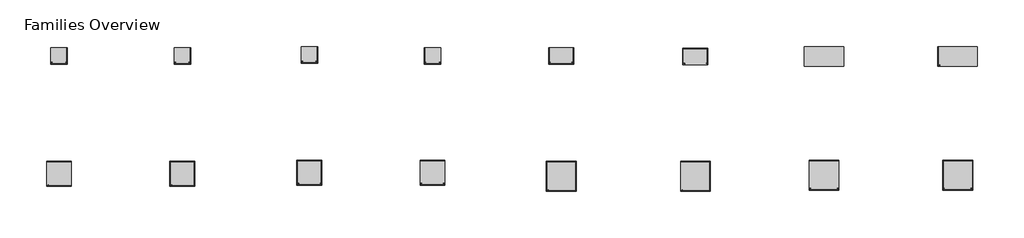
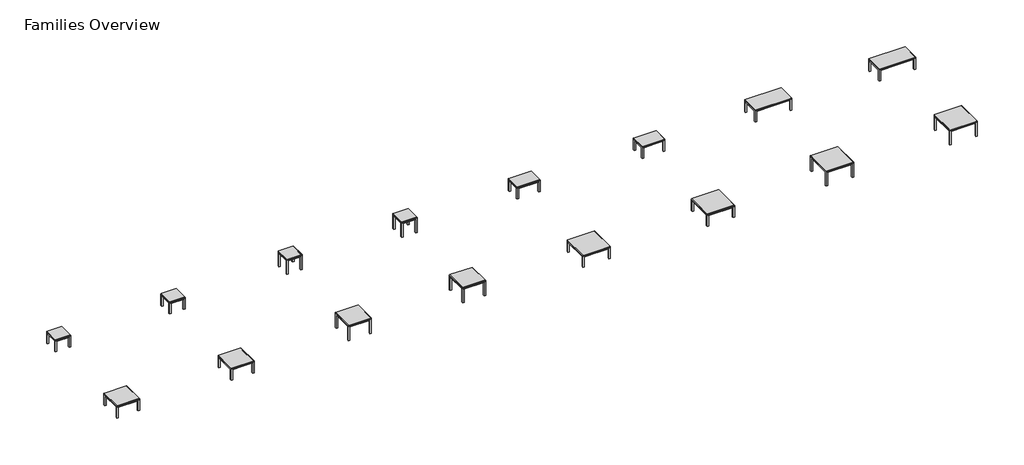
# One storey, incomplete: 16 furniture elements.
"""IFC4 building model written with IfcOpenShell, lengths in millimetres."""

import ifcopenshell
import ifcopenshell.guid

model = None  # the IFC model being written
_history = None  # IfcOwnerHistory: only IFC2X3 demands one
_inside = {}  # id of a spatial element -> (the spatial element, [elements in it])
_under = {}  # id of a project, library or spatial element -> (it, [spatial elements below it])
_declared = {}  # id of a project -> (the project, [libraries it declares])
_typed = {}  # id of a type object -> (the type object, [elements of that type])
_made_of = {}  # id of a material, layer set ... -> (it, [elements and type objects made of it])


def new_model(schema):
    """Start an empty IFC model of exactly this schema.

    Asked for "IFC4X3", IfcOpenShell would pick the latest addendum, in which some entities
    have other attributes; the version numbers below select the first issue.
    IFC2X3 requires an IfcOwnerHistory on every rooted entity: one is made here for all.
    """
    global model, _history
    if schema == "IFC4X3":
        model = ifcopenshell.file(schema_version=(4, 3, 0, 0))
    else:
        model = ifcopenshell.file(schema=schema)
    _inside.clear()
    _under.clear()
    _declared.clear()
    _typed.clear()
    _made_of.clear()
    _history = None
    if model.schema == "IFC2X3":
        org = make("IfcOrganization", Name="unknown")
        user = make(
            "IfcPersonAndOrganization",
            ThePerson=make("IfcPerson", FamilyName="unknown"),
            TheOrganization=org,
        )
        app = make(
            "IfcApplication",
            ApplicationDeveloper=org,
            Version="unknown",
            ApplicationFullName="unknown",
            ApplicationIdentifier="unknown",
        )
        _history = make(
            "IfcOwnerHistory",
            OwningUser=user,
            OwningApplication=app,
            ChangeAction="ADDED",
            CreationDate=0,
        )
    return model


def make(cls, **values):
    """One entity of the class cls with the attributes given. An attribute that is None is left unset."""
    return model.create_entity(
        cls, **{name: value for name, value in values.items() if value is not None}
    )


def rooted(cls, **values):
    """An entity with a GlobalId (a new one), such as an element, a storey or a relation."""
    return make(cls, GlobalId=ifcopenshell.guid.new(), OwnerHistory=_history, **values)


def si_unit(unit_type, name, prefix=None):
    """IfcSIUnit, for example si_unit("LENGTHUNIT", "METRE", prefix="MILLI")."""
    return make("IfcSIUnit", UnitType=unit_type, Prefix=prefix, Name=name)


def assignment(units):
    """IfcUnitAssignment: the units of a project."""
    return None if units is None else make("IfcUnitAssignment", Units=units)


def point(xyz):
    """IfcCartesianPoint."""
    return None if xyz is None else make("IfcCartesianPoint", Coordinates=xyz)


def direction(xyz):
    """IfcDirection."""
    return None if xyz is None else make("IfcDirection", DirectionRatios=xyz)


def frame(location, z_axis=None, x_axis=None):
    """IfcAxis2Placement3D, a coordinate frame: its origin and axes. An axis left out is left unset."""
    return make(
        "IfcAxis2Placement3D",
        Location=point(location),
        Axis=direction(z_axis),
        RefDirection=direction(x_axis),
    )


def origin():
    """The frame at (0, 0, 0) with its axes left unset."""
    return frame((0.0, 0.0, 0.0))


def place(relative_to, where):
    """IfcLocalPlacement: puts the frame where relative to a parent placement (None: the world)."""
    return make(
        "IfcLocalPlacement", PlacementRelTo=relative_to, RelativePlacement=where
    )


def context(
    kind, dimensions, precision=None, world=None, true_north=None, identifier=None
):
    """IfcGeometricRepresentationContext, for example the 3D "Model" context."""
    return make(
        "IfcGeometricRepresentationContext",
        ContextIdentifier=identifier,
        ContextType=kind,
        CoordinateSpaceDimension=dimensions,
        Precision=precision,
        WorldCoordinateSystem=world,
        TrueNorth=true_north,
    )


def project(units=None, contexts=None):
    """IfcProject with its units and contexts."""
    return rooted(
        "IfcProject",
        Name="project",
        RepresentationContexts=contexts,
        UnitsInContext=assignment(units),
    )


def spatial(cls, under=None, at=None, **own):
    """A site, building, storey or space (cls), placed at a placement, below another one or the project."""
    s = rooted(cls, ObjectPlacement=at, **own)
    if under is not None:
        _under.setdefault(under.id(), (under, []))[1].append(s)
    return s


def faces_of(points, faces, orient=None, outer=None):
    """IfcFace entities. A face is a list of loops; a loop is a list of indices into points, from 0.

    orient and outer hold one flag for each loop. By default every Orientation is true, the
    first loop of a face is its IfcFaceOuterBound and the others are IfcFaceBound.
    """
    made = []
    for i, loops in enumerate(faces):
        bounds = []
        for j, loop in enumerate(loops):
            is_outer = j == 0 if outer is None else outer[i][j]
            bounds.append(
                make(
                    "IfcFaceOuterBound" if is_outer else "IfcFaceBound",
                    Bound=make("IfcPolyLoop", Polygon=[points[k] for k in loop]),
                    Orientation=True if orient is None else orient[i][j],
                )
            )
        made.append(make("IfcFace", Bounds=bounds))
    return made


def faceted_brep(points, faces, orient=None, outer=None, voids=None):
    """IfcFacetedBrep: a solid bounded by flat faces; with voids (closed shells), ...WithVoids."""
    shared = [point(p) for p in points]
    hull = make("IfcClosedShell", CfsFaces=faces_of(shared, faces, orient, outer))
    if voids is None:
        return make("IfcFacetedBrep", Outer=hull)
    return make(
        "IfcFacetedBrepWithVoids",
        Outer=hull,
        Voids=[
            make(cls, CfsFaces=faces_of(shared, fs, o, b)) for cls, fs, o, b in voids
        ],
    )


def shape(context_of_items, identifier, shape_type, items):
    """IfcShapeRepresentation: the items that make up one representation, for example the "Body"."""
    return make(
        "IfcShapeRepresentation",
        ContextOfItems=context_of_items,
        RepresentationIdentifier=identifier,
        RepresentationType=shape_type,
        Items=items,
    )


def source(mapping_origin, context_of_items, identifier, shape_type, items):
    """IfcRepresentationMap: a shape defined once, which mapped items show again and again."""
    return make(
        "IfcRepresentationMap",
        MappingOrigin=mapping_origin,
        MappedRepresentation=shape(context_of_items, identifier, shape_type, items),
    )


def transform(
    local_origin,
    x_axis=None,
    y_axis=None,
    z_axis=None,
    scale=None,
    scale2=None,
    scale3=None,
    uniform=True,
):
    """IfcCartesianTransformationOperator3D, or its non-uniform kind. x_axis, y_axis, z_axis: its Axis1, 2, 3."""
    if uniform:
        return make(
            "IfcCartesianTransformationOperator3D",
            Axis1=direction(x_axis),
            Axis2=direction(y_axis),
            LocalOrigin=point(local_origin),
            Scale=scale,
            Axis3=direction(z_axis),
        )
    return make(
        "IfcCartesianTransformationOperator3DnonUniform",
        Axis1=direction(x_axis),
        Axis2=direction(y_axis),
        LocalOrigin=point(local_origin),
        Scale=scale,
        Axis3=direction(z_axis),
        Scale2=scale2,
        Scale3=scale3,
    )


def mapped(mapping_source, mapping_target):
    """IfcMappedItem: shows the shape of a source again, moved by a transform."""
    return make(
        "IfcMappedItem", MappingSource=mapping_source, MappingTarget=mapping_target
    )


def made_of(thing, what):
    """Note that an element or type object is made of a material, layer set ...; save() writes the relation."""
    if what is not None:
        _made_of.setdefault(what.id(), (what, []))[1].append(thing)
    return thing


def element(
    cls,
    number,
    at=None,
    inside=None,
    cuts=None,
    type_object=None,
    material=None,
    context=None,
    identifier="Body",
    shape_type=None,
    held_by="IfcProductDefinitionShape",
    body=None,
    shapes=None,
    **own,
):
    """One element of the class cls, such as IfcWall. Its Tag is "e" and its number.

    at: its placement. inside: the storey or other place that contains it. cuts: it is an
    opening in that element (IfcRelVoidsElement). A single representation is given by context,
    identifier, shape_type and body (its items); several are given by shapes. held_by: the class
    of the entity that holds the representations. save() writes the other relations.
    """
    e = rooted(cls, Tag="e%d" % number, ObjectPlacement=at, **own)
    if body is not None:
        shapes = [shape(context, identifier, shape_type, body)]
    if shapes is not None:
        e.Representation = make(held_by, Representations=shapes)
    if inside is not None:
        _inside.setdefault(inside.id(), (inside, []))[1].append(e)
    if cuts is not None:
        rooted(
            "IfcRelVoidsElement", RelatingBuildingElement=cuts, RelatedOpeningElement=e
        )
    if type_object is not None:
        _typed.setdefault(type_object.id(), (type_object, []))[1].append(e)
    return made_of(e, material)


def aggregate(whole, parts):
    """IfcRelAggregates: a whole, such as a stair, and the parts it consists of."""
    return rooted("IfcRelAggregates", RelatingObject=whole, RelatedObjects=parts)


def save(model, path):
    """Write the relations noted so far, then the file.

    IfcRelAggregates (storeys below a building ...), IfcRelContainedInSpatialStructure (elements
    in a storey), IfcRelDefinesByType, IfcRelAssociatesMaterial and IfcRelDeclares: one each for
    every whole, place, type object, material and project.
    """
    for whole, parts in _under.values():
        aggregate(whole, parts)
    for where, things in _inside.values():
        rooted(
            "IfcRelContainedInSpatialStructure",
            RelatedElements=things,
            RelatingStructure=where,
        )
    for kind, things in _typed.values():
        rooted("IfcRelDefinesByType", RelatedObjects=things, RelatingType=kind)
    for what, things in _made_of.values():
        rooted("IfcRelAssociatesMaterial", RelatedObjects=things, RelatingMaterial=what)
    for by, libraries in _declared.values():
        rooted("IfcRelDeclares", RelatingContext=by, RelatedDefinitions=libraries)
    model.write(path)


def furniture_cea75027(model_context):
    return source(origin(), model_context, "Body", "Brep", [
        faceted_brep([(508.0, 0.0, 381.0), (0.0, 0.0, 381.0), (0.0, -508.0, 381.0), (508.0, -508.0, 381.0), (508.0, -50.1297163, 358.7750121), (508.0, -458.1013016, 358.7750121), (457.8734085, -458.1013016, 358.7750121), (457.8734085, -457.8702837, 358.7750121), (501.6498062, -457.8702837, 358.7750121), (501.6498062, -50.1297163, 358.7750121), (457.8734085, -508.0, 358.7750121), (50.1812393, -508.0, 358.7750121), (50.1812393, -458.1013016, 358.7750121), (0.0, -458.1013016, 358.7750121), (0.0, -50.1297163, 358.7750121), (6.3501938, -50.1297163, 358.7750121), (6.3501938, -457.8702837, 358.7750121), (50.8001938, -457.8702837, 358.7750121), (50.8001938, -501.6496318, 358.7750121), (457.8734085, -501.6496318, 358.7750121), (50.1812393, 0.0, 358.7750121), (457.8734085, 0.0, 358.7750121), (457.8734085, -6.3503682, 358.7750121), (50.8001938, -6.3503682, 358.7750121), (50.8001938, -50.1297163, 358.7750121), (50.1812393, -50.1297163, 358.7750121), (508.0, 0.0, 0.0), (457.8734085, 0.0, 0.0), (50.1812393, 0.0, 0.0), (0.0, 0.0, 0.0), (0.0, -50.1297163, 0.0), (0.0, -458.1013016, 0.0), (0.0, -508.0, 0.0), (50.1812393, -508.0, 0.0), (457.8734085, -508.0, 0.0), (508.0, -508.0, 0.0), (508.0, -458.1013016, 0.0), (508.0, -50.1297163, 0.0), (50.1812393, -50.1297163, 0.0), (50.1812393, -458.1013016, 0.0), (457.8734085, -50.1297163, 0.0), (457.8734085, -458.1013016, 0.0), (50.1812393, -458.1013016, 336.5499879), (457.8734085, -50.1297163, 336.5499879), (457.8734085, -28.575, 336.5499879), (479.425, -50.1297163, 336.5499879), (457.8734085, -458.1013016, 336.5499879), (457.8734085, -479.425, 336.5499879), (50.7998062, -50.8000242, 336.5499879), (50.7998062, -28.575, 336.5499879), (479.425, -458.1013016, 336.5499879), (50.1812393, -479.425, 336.5499879), (50.1812393, -458.1013016, 336.5499879), (28.5708422, -458.1013016, 336.5499879), (28.5708422, -50.8000242, 336.5499879)], [[[0, 1, 2, 3]], [[4, 5, 6, 7, 8, 9]], [[10, 11, 12, 13, 14, 15, 16, 17, 18, 19]], [[20, 21, 22, 23, 24, 25]], [[1, 0, 26, 27, 21, 20, 28, 29]], [[2, 1, 29, 30, 14, 13, 31, 32]], [[3, 2, 32, 33, 11, 10, 34, 35]], [[0, 3, 35, 36, 5, 4, 37, 26]], [[28, 38, 30, 29]], [[33, 32, 31, 39]], [[26, 37, 40, 27]], [[36, 35, 34, 41]], [[30, 38, 25, 15, 14]], [[38, 28, 20, 25]], [[33, 39, 42, 12, 11]], [[39, 31, 13, 12, 42]], [[27, 40, 43, 44, 22, 21]], [[40, 37, 4, 9, 45, 43]], [[36, 41, 46, 6, 5]], [[41, 34, 10, 19, 47, 46]], [[48, 49, 44, 43, 45, 50, 46, 47, 51, 52, 53, 54]], [[48, 54, 15, 25, 24]], [[54, 53, 16, 15]], [[53, 52, 17, 16]], [[52, 51, 18, 17]], [[51, 47, 19, 18]], [[46, 7, 6]], [[46, 50, 8, 7]], [[50, 45, 9, 8]], [[44, 49, 23, 22]], [[49, 48, 24, 23]]]),
        faceted_brep([(508.0, -508.0, 411.1625121), (508.0, -508.0, 387.3500121), (508.0, 0.0, 387.3500121), (508.0, 0.0, 411.1625121), (0.0, 0.0, 411.1625121), (0.0, 0.0, 387.3500121), (0.0, -508.0, 387.3500121), (0.0, -508.0, 411.1625121), (500.0626938, -7.9375242, 419.1), (7.9373062, -7.9375242, 419.1), (7.9373062, -500.0625484, 419.1), (500.0626938, -500.0625484, 419.1)], [[[0, 1, 2, 3]], [[4, 5, 6, 7]], [[1, 0, 7, 6]], [[2, 1, 6, 5]], [[3, 2, 5, 4]], [[8, 9, 10, 11]], [[8, 11, 0, 3]], [[11, 10, 7, 0]], [[10, 9, 4, 7]], [[9, 8, 3, 4]]]),
        faceted_brep([(508.0, 0.0, 381.0), (508.0, -508.0, 381.0), (0.0, -508.0, 381.0), (0.0, 0.0, 381.0), (501.6498062, -6.3499758, 387.3500121), (6.3501938, -6.3499758, 387.3500121), (6.3501938, -501.6496318, 387.3500121), (501.6498062, -501.6496318, 387.3500121)], [[[0, 1, 2, 3]], [[4, 5, 6, 7]], [[4, 7, 1, 0]], [[7, 6, 2, 1]], [[6, 5, 3, 2]], [[5, 4, 0, 3]]]),
    ])


def furniture_31205a44(model_context):
    return source(origin(), model_context, "Body", "Brep", [
        faceted_brep([(508.0, 0.0, 495.3), (0.0, 0.0, 495.3), (0.0, -508.0, 495.3), (508.0, -508.0, 495.3), (508.0, -50.1297163, 473.0750121), (508.0, -458.1013016, 473.0750121), (457.8734085, -458.1013016, 473.0750121), (457.8734085, -457.8702837, 473.0750121), (501.6498062, -457.8702837, 473.0750121), (501.6498062, -50.1297163, 473.0750121), (457.8734085, -508.0, 473.0750121), (50.1812393, -508.0, 473.0750121), (50.1812393, -458.1013016, 473.0750121), (0.0, -458.1013016, 473.0750121), (0.0, -50.1297163, 473.0750121), (6.3501938, -50.1297163, 473.0750121), (6.3501938, -457.8702837, 473.0750121), (50.8001938, -457.8702837, 473.0750121), (50.8001938, -501.6496318, 473.0750121), (457.8734085, -501.6496318, 473.0750121), (50.1812393, 0.0, 473.0750121), (457.8734085, 0.0, 473.0750121), (457.8734085, -6.3503682, 473.0750121), (50.8001938, -6.3503682, 473.0750121), (50.8001938, -50.1297163, 473.0750121), (50.1812393, -50.1297163, 473.0750121), (508.0, 0.0, 0.0), (457.8734085, 0.0, 0.0), (50.1812393, 0.0, 0.0), (0.0, 0.0, 0.0), (0.0, -50.1297163, 0.0), (0.0, -458.1013016, 0.0), (0.0, -508.0, 0.0), (50.1812393, -508.0, 0.0), (457.8734085, -508.0, 0.0), (508.0, -508.0, 0.0), (508.0, -458.1013016, 0.0), (508.0, -50.1297163, 0.0), (50.1812393, -50.1297163, 0.0), (50.1812393, -458.1013016, 0.0), (457.8734085, -50.1297163, 0.0), (457.8734085, -458.1013016, 0.0), (50.1812393, -458.1013016, 450.8499879), (457.8734085, -50.1297163, 450.8499879), (457.8734085, -28.575, 450.8499879), (479.425, -50.1297163, 450.8499879), (457.8734085, -458.1013016, 450.8499879), (457.8734085, -479.425, 450.8499879), (50.7998062, -50.8000242, 450.8499879), (50.7998062, -28.575, 450.8499879), (479.425, -458.1013016, 450.8499879), (50.1812393, -479.425, 450.8499879), (50.1812393, -458.1013016, 450.8499879), (28.5708422, -458.1013016, 450.8499879), (28.5708422, -50.8000242, 450.8499879)], [[[0, 1, 2, 3]], [[4, 5, 6, 7, 8, 9]], [[10, 11, 12, 13, 14, 15, 16, 17, 18, 19]], [[20, 21, 22, 23, 24, 25]], [[1, 0, 26, 27, 21, 20, 28, 29]], [[2, 1, 29, 30, 14, 13, 31, 32]], [[3, 2, 32, 33, 11, 10, 34, 35]], [[0, 3, 35, 36, 5, 4, 37, 26]], [[28, 38, 30, 29]], [[33, 32, 31, 39]], [[26, 37, 40, 27]], [[36, 35, 34, 41]], [[30, 38, 25, 15, 14]], [[38, 28, 20, 25]], [[33, 39, 42, 12, 11]], [[39, 31, 13, 12, 42]], [[27, 40, 43, 44, 22, 21]], [[40, 37, 4, 9, 45, 43]], [[36, 41, 46, 6, 5]], [[41, 34, 10, 19, 47, 46]], [[48, 49, 44, 43, 45, 50, 46, 47, 51, 52, 53, 54]], [[48, 54, 15, 25, 24]], [[54, 53, 16, 15]], [[53, 52, 17, 16]], [[52, 51, 18, 17]], [[51, 47, 19, 18]], [[46, 7, 6]], [[46, 50, 8, 7]], [[50, 45, 9, 8]], [[44, 49, 23, 22]], [[49, 48, 24, 23]]]),
        faceted_brep([(508.0, -508.0, 525.4625121), (508.0, -508.0, 501.6500121), (508.0, 0.0, 501.6500121), (508.0, 0.0, 525.4625121), (0.0, 0.0, 525.4625121), (0.0, 0.0, 501.6500121), (0.0, -508.0, 501.6500121), (0.0, -508.0, 525.4625121), (500.0626938, -7.9375242, 533.4), (7.9373062, -7.9375242, 533.4), (7.9373062, -500.0625484, 533.4), (500.0626938, -500.0625484, 533.4)], [[[0, 1, 2, 3]], [[4, 5, 6, 7]], [[1, 0, 7, 6]], [[2, 1, 6, 5]], [[3, 2, 5, 4]], [[8, 9, 10, 11]], [[8, 11, 0, 3]], [[11, 10, 7, 0]], [[10, 9, 4, 7]], [[9, 8, 3, 4]]]),
        faceted_brep([(508.0, 0.0, 495.3), (508.0, -508.0, 495.3), (0.0, -508.0, 495.3), (0.0, 0.0, 495.3), (501.6498062, -6.3499758, 501.6500121), (6.3501938, -6.3499758, 501.6500121), (6.3501938, -501.6496318, 501.6500121), (501.6498062, -501.6496318, 501.6500121)], [[[0, 1, 2, 3]], [[4, 5, 6, 7]], [[4, 7, 1, 0]], [[7, 6, 2, 1]], [[6, 5, 3, 2]], [[5, 4, 0, 3]]]),
    ])


def furniture_fe285424(model_context):
    return source(origin(), model_context, "Body", "Brep", [
        faceted_brep([(914.4, 0.0, 381.0), (0.0, 0.0, 381.0), (0.0, -914.4, 381.0), (914.4, -914.4, 381.0), (914.4, -50.1297163, 358.7750121), (914.4, -864.5013016, 358.7750121), (864.2734085, -864.5013016, 358.7750121), (864.2734085, -864.2702837, 358.7750121), (908.0498062, -864.2702837, 358.7750121), (908.0498062, -50.1297163, 358.7750121), (864.2734085, -914.4, 358.7750121), (50.1812393, -914.4, 358.7750121), (50.1812393, -864.5013016, 358.7750121), (0.0, -864.5013016, 358.7750121), (0.0, -50.1297163, 358.7750121), (6.3501938, -50.1297163, 358.7750121), (6.3501938, -864.2702837, 358.7750121), (50.8001938, -864.2702837, 358.7750121), (50.8001938, -908.0496318, 358.7750121), (864.2734085, -908.0496318, 358.7750121), (50.1812393, 0.0, 358.7750121), (864.2734085, 0.0, 358.7750121), (864.2734085, -6.3503682, 358.7750121), (50.8001938, -6.3503682, 358.7750121), (50.8001938, -50.1297163, 358.7750121), (50.1812393, -50.1297163, 358.7750121), (914.4, 0.0, 0.0), (864.2734085, 0.0, 0.0), (50.1812393, 0.0, 0.0), (0.0, 0.0, 0.0), (0.0, -50.1297163, 0.0), (0.0, -864.5013016, 0.0), (0.0, -914.4, 0.0), (50.1812393, -914.4, 0.0), (864.2734085, -914.4, 0.0), (914.4, -914.4, 0.0), (914.4, -864.5013016, 0.0), (914.4, -50.1297163, 0.0), (50.1812393, -50.1297163, 0.0), (50.1812393, -864.5013016, 0.0), (864.2734085, -50.1297163, 0.0), (864.2734085, -864.5013016, 0.0), (50.1812393, -864.5013016, 336.5499879), (864.2734085, -50.1297163, 336.5499879), (864.2734085, -28.575, 336.5499879), (885.825, -50.1297163, 336.5499879), (864.2734085, -864.5013016, 336.5499879), (864.2734085, -885.825, 336.5499879), (50.7998062, -50.8000242, 336.5499879), (50.7998062, -28.575, 336.5499879), (885.825, -864.5013016, 336.5499879), (50.1812393, -885.825, 336.5499879), (50.1812393, -864.5013016, 336.5499879), (28.5708422, -864.5013016, 336.5499879), (28.5708422, -50.8000242, 336.5499879)], [[[0, 1, 2, 3]], [[4, 5, 6, 7, 8, 9]], [[10, 11, 12, 13, 14, 15, 16, 17, 18, 19]], [[20, 21, 22, 23, 24, 25]], [[1, 0, 26, 27, 21, 20, 28, 29]], [[2, 1, 29, 30, 14, 13, 31, 32]], [[3, 2, 32, 33, 11, 10, 34, 35]], [[0, 3, 35, 36, 5, 4, 37, 26]], [[28, 38, 30, 29]], [[33, 32, 31, 39]], [[26, 37, 40, 27]], [[36, 35, 34, 41]], [[30, 38, 25, 15, 14]], [[38, 28, 20, 25]], [[33, 39, 42, 12, 11]], [[39, 31, 13, 12, 42]], [[27, 40, 43, 44, 22, 21]], [[40, 37, 4, 9, 45, 43]], [[36, 41, 46, 6, 5]], [[41, 34, 10, 19, 47, 46]], [[48, 49, 44, 43, 45, 50, 46, 47, 51, 52, 53, 54]], [[48, 54, 15, 25, 24]], [[54, 53, 16, 15]], [[53, 52, 17, 16]], [[52, 51, 18, 17]], [[51, 47, 19, 18]], [[46, 7, 6]], [[46, 50, 8, 7]], [[50, 45, 9, 8]], [[44, 49, 23, 22]], [[49, 48, 24, 23]]]),
        faceted_brep([(914.4, -914.4, 411.1625121), (914.4, -914.4, 387.3500121), (914.4, 0.0, 387.3500121), (914.4, 0.0, 411.1625121), (0.0, 0.0, 411.1625121), (0.0, 0.0, 387.3500121), (0.0, -914.4, 387.3500121), (0.0, -914.4, 411.1625121), (906.4626938, -7.9375242, 419.1), (7.9373062, -7.9375242, 419.1), (7.9373062, -906.4625484, 419.1), (906.4626938, -906.4625484, 419.1)], [[[0, 1, 2, 3]], [[4, 5, 6, 7]], [[1, 0, 7, 6]], [[2, 1, 6, 5]], [[3, 2, 5, 4]], [[8, 9, 10, 11]], [[8, 11, 0, 3]], [[11, 10, 7, 0]], [[10, 9, 4, 7]], [[9, 8, 3, 4]]]),
        faceted_brep([(914.4, 0.0, 381.0), (914.4, -914.4, 381.0), (0.0, -914.4, 381.0), (0.0, 0.0, 381.0), (908.0498062, -6.3499758, 387.3500121), (6.3501938, -6.3499758, 387.3500121), (6.3501938, -908.0496318, 387.3500121), (908.0498062, -908.0496318, 387.3500121)], [[[0, 1, 2, 3]], [[4, 5, 6, 7]], [[4, 7, 1, 0]], [[7, 6, 2, 1]], [[6, 5, 3, 2]], [[5, 4, 0, 3]]]),
    ])


def furniture_faf52c22(model_context):
    return source(origin(), model_context, "Body", "Brep", [
        faceted_brep([(914.4, 0.0, 495.3), (0.0, 0.0, 495.3), (0.0, -914.4, 495.3), (914.4, -914.4, 495.3), (914.4, -50.1297163, 473.0750121), (914.4, -864.5013016, 473.0750121), (864.2734085, -864.5013016, 473.0750121), (864.2734085, -864.2702837, 473.0750121), (908.0498062, -864.2702837, 473.0750121), (908.0498062, -50.1297163, 473.0750121), (864.2734085, -914.4, 473.0750121), (50.1812393, -914.4, 473.0750121), (50.1812393, -864.5013016, 473.0750121), (0.0, -864.5013016, 473.0750121), (0.0, -50.1297163, 473.0750121), (6.3501938, -50.1297163, 473.0750121), (6.3501938, -864.2702837, 473.0750121), (50.8001938, -864.2702837, 473.0750121), (50.8001938, -908.0496318, 473.0750121), (864.2734085, -908.0496318, 473.0750121), (50.1812393, 0.0, 473.0750121), (864.2734085, 0.0, 473.0750121), (864.2734085, -6.3503682, 473.0750121), (50.8001938, -6.3503682, 473.0750121), (50.8001938, -50.1297163, 473.0750121), (50.1812393, -50.1297163, 473.0750121), (914.4, 0.0, 0.0), (864.2734085, 0.0, 0.0), (50.1812393, 0.0, 0.0), (0.0, 0.0, 0.0), (0.0, -50.1297163, 0.0), (0.0, -864.5013016, 0.0), (0.0, -914.4, 0.0), (50.1812393, -914.4, 0.0), (864.2734085, -914.4, 0.0), (914.4, -914.4, 0.0), (914.4, -864.5013016, 0.0), (914.4, -50.1297163, 0.0), (50.1812393, -50.1297163, 0.0), (50.1812393, -864.5013016, 0.0), (864.2734085, -50.1297163, 0.0), (864.2734085, -864.5013016, 0.0), (50.1812393, -864.5013016, 450.8499879), (864.2734085, -50.1297163, 450.8499879), (864.2734085, -28.575, 450.8499879), (885.825, -50.1297163, 450.8499879), (864.2734085, -864.5013016, 450.8499879), (864.2734085, -885.825, 450.8499879), (50.7998062, -50.8000242, 450.8499879), (50.7998062, -28.575, 450.8499879), (885.825, -864.5013016, 450.8499879), (50.1812393, -885.825, 450.8499879), (50.1812393, -864.5013016, 450.8499879), (28.5708422, -864.5013016, 450.8499879), (28.5708422, -50.8000242, 450.8499879)], [[[0, 1, 2, 3]], [[4, 5, 6, 7, 8, 9]], [[10, 11, 12, 13, 14, 15, 16, 17, 18, 19]], [[20, 21, 22, 23, 24, 25]], [[1, 0, 26, 27, 21, 20, 28, 29]], [[2, 1, 29, 30, 14, 13, 31, 32]], [[3, 2, 32, 33, 11, 10, 34, 35]], [[0, 3, 35, 36, 5, 4, 37, 26]], [[28, 38, 30, 29]], [[33, 32, 31, 39]], [[26, 37, 40, 27]], [[36, 35, 34, 41]], [[30, 38, 25, 15, 14]], [[38, 28, 20, 25]], [[33, 39, 42, 12, 11]], [[39, 31, 13, 12, 42]], [[27, 40, 43, 44, 22, 21]], [[40, 37, 4, 9, 45, 43]], [[36, 41, 46, 6, 5]], [[41, 34, 10, 19, 47, 46]], [[48, 49, 44, 43, 45, 50, 46, 47, 51, 52, 53, 54]], [[48, 54, 15, 25, 24]], [[54, 53, 16, 15]], [[53, 52, 17, 16]], [[52, 51, 18, 17]], [[51, 47, 19, 18]], [[46, 7, 6]], [[46, 50, 8, 7]], [[50, 45, 9, 8]], [[44, 49, 23, 22]], [[49, 48, 24, 23]]]),
        faceted_brep([(914.4, -914.4, 525.4625121), (914.4, -914.4, 501.6500121), (914.4, 0.0, 501.6500121), (914.4, 0.0, 525.4625121), (0.0, 0.0, 525.4625121), (0.0, 0.0, 501.6500121), (0.0, -914.4, 501.6500121), (0.0, -914.4, 525.4625121), (906.4626938, -7.9375242, 533.4), (7.9373062, -7.9375242, 533.4), (7.9373062, -906.4625484, 533.4), (906.4626938, -906.4625484, 533.4)], [[[0, 1, 2, 3]], [[4, 5, 6, 7]], [[1, 0, 7, 6]], [[2, 1, 6, 5]], [[3, 2, 5, 4]], [[8, 9, 10, 11]], [[8, 11, 0, 3]], [[11, 10, 7, 0]], [[10, 9, 4, 7]], [[9, 8, 3, 4]]]),
        faceted_brep([(914.4, 0.0, 495.3), (914.4, -914.4, 495.3), (0.0, -914.4, 495.3), (0.0, 0.0, 495.3), (908.0498062, -6.3499758, 501.6500121), (6.3501938, -6.3499758, 501.6500121), (6.3501938, -908.0496318, 501.6500121), (908.0498062, -908.0496318, 501.6500121)], [[[0, 1, 2, 3]], [[4, 5, 6, 7]], [[4, 7, 1, 0]], [[7, 6, 2, 1]], [[6, 5, 3, 2]], [[5, 4, 0, 3]]]),
    ])


def furniture_38775423(model_context):
    return source(origin(), model_context, "Body", "Brep", [
        faceted_brep([(762.0, 0.0, 381.0), (0.0, 0.0, 381.0), (0.0, -508.0, 381.0), (762.0, -508.0, 381.0), (762.0, -50.1297163, 358.7750121), (762.0, -458.1013016, 358.7750121), (711.8734085, -458.1013016, 358.7750121), (711.8734085, -457.8702837, 358.7750121), (755.6498062, -457.8702837, 358.7750121), (755.6498062, -50.1297163, 358.7750121), (711.8734085, -508.0, 358.7750121), (50.1812393, -508.0, 358.7750121), (50.1812393, -458.1013016, 358.7750121), (0.0, -458.1013016, 358.7750121), (0.0, -50.1297163, 358.7750121), (6.3501938, -50.1297163, 358.7750121), (6.3501938, -457.8702837, 358.7750121), (50.8001938, -457.8702837, 358.7750121), (50.8001938, -501.6496318, 358.7750121), (711.8734085, -501.6496318, 358.7750121), (50.1812393, 0.0, 358.7750121), (711.8734085, 0.0, 358.7750121), (711.8734085, -6.3503682, 358.7750121), (50.8001938, -6.3503682, 358.7750121), (50.8001938, -50.1297163, 358.7750121), (50.1812393, -50.1297163, 358.7750121), (762.0, 0.0, 0.0), (711.8734085, 0.0, 0.0), (50.1812393, 0.0, 0.0), (0.0, 0.0, 0.0), (0.0, -50.1297163, 0.0), (0.0, -458.1013016, 0.0), (0.0, -508.0, 0.0), (50.1812393, -508.0, 0.0), (711.8734085, -508.0, 0.0), (762.0, -508.0, 0.0), (762.0, -458.1013016, 0.0), (762.0, -50.1297163, 0.0), (50.1812393, -50.1297163, 0.0), (50.1812393, -458.1013016, 0.0), (711.8734085, -50.1297163, 0.0), (711.8734085, -458.1013016, 0.0), (50.1812393, -458.1013016, 336.5499879), (711.8734085, -50.1297163, 336.5499879), (711.8734085, -28.575, 336.5499879), (733.425, -50.1297163, 336.5499879), (711.8734085, -458.1013016, 336.5499879), (711.8734085, -479.425, 336.5499879), (50.7998062, -50.8000242, 336.5499879), (50.7998062, -28.575, 336.5499879), (733.425, -458.1013016, 336.5499879), (50.1812393, -479.425, 336.5499879), (50.1812393, -458.1013016, 336.5499879), (28.5708422, -458.1013016, 336.5499879), (28.5708422, -50.8000242, 336.5499879)], [[[0, 1, 2, 3]], [[4, 5, 6, 7, 8, 9]], [[10, 11, 12, 13, 14, 15, 16, 17, 18, 19]], [[20, 21, 22, 23, 24, 25]], [[1, 0, 26, 27, 21, 20, 28, 29]], [[2, 1, 29, 30, 14, 13, 31, 32]], [[3, 2, 32, 33, 11, 10, 34, 35]], [[0, 3, 35, 36, 5, 4, 37, 26]], [[28, 38, 30, 29]], [[33, 32, 31, 39]], [[26, 37, 40, 27]], [[36, 35, 34, 41]], [[30, 38, 25, 15, 14]], [[38, 28, 20, 25]], [[33, 39, 42, 12, 11]], [[39, 31, 13, 12, 42]], [[27, 40, 43, 44, 22, 21]], [[40, 37, 4, 9, 45, 43]], [[36, 41, 46, 6, 5]], [[41, 34, 10, 19, 47, 46]], [[48, 49, 44, 43, 45, 50, 46, 47, 51, 52, 53, 54]], [[48, 54, 15, 25, 24]], [[54, 53, 16, 15]], [[53, 52, 17, 16]], [[52, 51, 18, 17]], [[51, 47, 19, 18]], [[46, 7, 6]], [[46, 50, 8, 7]], [[50, 45, 9, 8]], [[44, 49, 23, 22]], [[49, 48, 24, 23]]]),
        faceted_brep([(762.0, -508.0, 411.1625121), (762.0, -508.0, 387.3500121), (762.0, 0.0, 387.3500121), (762.0, 0.0, 411.1625121), (0.0, 0.0, 411.1625121), (0.0, 0.0, 387.3500121), (0.0, -508.0, 387.3500121), (0.0, -508.0, 411.1625121), (754.0626938, -7.9375242, 419.1), (7.9373062, -7.9375242, 419.1), (7.9373062, -500.0625484, 419.1), (754.0626938, -500.0625484, 419.1)], [[[0, 1, 2, 3]], [[4, 5, 6, 7]], [[1, 0, 7, 6]], [[2, 1, 6, 5]], [[3, 2, 5, 4]], [[8, 9, 10, 11]], [[8, 11, 0, 3]], [[11, 10, 7, 0]], [[10, 9, 4, 7]], [[9, 8, 3, 4]]]),
        faceted_brep([(762.0, 0.0, 381.0), (762.0, -508.0, 381.0), (0.0, -508.0, 381.0), (0.0, 0.0, 381.0), (755.6498062, -6.3499758, 387.3500121), (6.3501938, -6.3499758, 387.3500121), (6.3501938, -501.6496318, 387.3500121), (755.6498062, -501.6496318, 387.3500121)], [[[0, 1, 2, 3]], [[4, 5, 6, 7]], [[4, 7, 1, 0]], [[7, 6, 2, 1]], [[6, 5, 3, 2]], [[5, 4, 0, 3]]]),
    ])


def furniture_e79425fe(model_context):
    return source(origin(), model_context, "Body", "Brep", [
        faceted_brep([(762.0, 0.0, 495.3), (0.0, 0.0, 495.3), (0.0, -762.0, 495.3), (762.0, -762.0, 495.3), (762.0, -50.1297163, 473.0750121), (762.0, -712.1013016, 473.0750121), (711.8734085, -712.1013016, 473.0750121), (711.8734085, -711.8702837, 473.0750121), (755.6498062, -711.8702837, 473.0750121), (755.6498062, -50.1297163, 473.0750121), (711.8734085, -762.0, 473.0750121), (50.1812393, -762.0, 473.0750121), (50.1812393, -712.1013016, 473.0750121), (0.0, -712.1013016, 473.0750121), (0.0, -50.1297163, 473.0750121), (6.3501938, -50.1297163, 473.0750121), (6.3501938, -711.8702837, 473.0750121), (50.8001938, -711.8702837, 473.0750121), (50.8001938, -755.6496318, 473.0750121), (711.8734085, -755.6496318, 473.0750121), (50.1812393, 0.0, 473.0750121), (711.8734085, 0.0, 473.0750121), (711.8734085, -6.3503682, 473.0750121), (50.8001938, -6.3503682, 473.0750121), (50.8001938, -50.1297163, 473.0750121), (50.1812393, -50.1297163, 473.0750121), (762.0, 0.0, 0.0), (711.8734085, 0.0, 0.0), (50.1812393, 0.0, 0.0), (0.0, 0.0, 0.0), (0.0, -50.1297163, 0.0), (0.0, -712.1013016, 0.0), (0.0, -762.0, 0.0), (50.1812393, -762.0, 0.0), (711.8734085, -762.0, 0.0), (762.0, -762.0, 0.0), (762.0, -712.1013016, 0.0), (762.0, -50.1297163, 0.0), (50.1812393, -50.1297163, 0.0), (50.1812393, -712.1013016, 0.0), (711.8734085, -50.1297163, 0.0), (711.8734085, -712.1013016, 0.0), (50.1812393, -712.1013016, 450.8499879), (711.8734085, -50.1297163, 450.8499879), (711.8734085, -28.575, 450.8499879), (733.425, -50.1297163, 450.8499879), (711.8734085, -712.1013016, 450.8499879), (711.8734085, -733.425, 450.8499879), (50.7998062, -50.8000242, 450.8499879), (50.7998062, -28.575, 450.8499879), (733.425, -712.1013016, 450.8499879), (50.1812393, -733.425, 450.8499879), (50.1812393, -712.1013016, 450.8499879), (28.5708422, -712.1013016, 450.8499879), (28.5708422, -50.8000242, 450.8499879)], [[[0, 1, 2, 3]], [[4, 5, 6, 7, 8, 9]], [[10, 11, 12, 13, 14, 15, 16, 17, 18, 19]], [[20, 21, 22, 23, 24, 25]], [[1, 0, 26, 27, 21, 20, 28, 29]], [[2, 1, 29, 30, 14, 13, 31, 32]], [[3, 2, 32, 33, 11, 10, 34, 35]], [[0, 3, 35, 36, 5, 4, 37, 26]], [[28, 38, 30, 29]], [[33, 32, 31, 39]], [[26, 37, 40, 27]], [[36, 35, 34, 41]], [[30, 38, 25, 15, 14]], [[38, 28, 20, 25]], [[33, 39, 42, 12, 11]], [[39, 31, 13, 12, 42]], [[27, 40, 43, 44, 22, 21]], [[40, 37, 4, 9, 45, 43]], [[36, 41, 46, 6, 5]], [[41, 34, 10, 19, 47, 46]], [[48, 49, 44, 43, 45, 50, 46, 47, 51, 52, 53, 54]], [[48, 54, 15, 25, 24]], [[54, 53, 16, 15]], [[53, 52, 17, 16]], [[52, 51, 18, 17]], [[51, 47, 19, 18]], [[46, 7, 6]], [[46, 50, 8, 7]], [[50, 45, 9, 8]], [[44, 49, 23, 22]], [[49, 48, 24, 23]]]),
        faceted_brep([(762.0, -762.0, 525.4625121), (762.0, -762.0, 501.6500121), (762.0, 0.0, 501.6500121), (762.0, 0.0, 525.4625121), (0.0, 0.0, 525.4625121), (0.0, 0.0, 501.6500121), (0.0, -762.0, 501.6500121), (0.0, -762.0, 525.4625121), (754.0626938, -7.9375242, 533.4), (7.9373062, -7.9375242, 533.4), (7.9373062, -754.0625484, 533.4), (754.0626938, -754.0625484, 533.4)], [[[0, 1, 2, 3]], [[4, 5, 6, 7]], [[1, 0, 7, 6]], [[2, 1, 6, 5]], [[3, 2, 5, 4]], [[8, 9, 10, 11]], [[8, 11, 0, 3]], [[11, 10, 7, 0]], [[10, 9, 4, 7]], [[9, 8, 3, 4]]]),
        faceted_brep([(762.0, 0.0, 495.3), (762.0, -762.0, 495.3), (0.0, -762.0, 495.3), (0.0, 0.0, 495.3), (755.6498062, -6.3499758, 501.6500121), (6.3501938, -6.3499758, 501.6500121), (6.3501938, -755.6496318, 501.6500121), (755.6498062, -755.6496318, 501.6500121)], [[[0, 1, 2, 3]], [[4, 5, 6, 7]], [[4, 7, 1, 0]], [[7, 6, 2, 1]], [[6, 5, 3, 2]], [[5, 4, 0, 3]]]),
    ])


def furniture_ce336b14(model_context):
    return source(origin(), model_context, "Body", "Brep", [
        faceted_brep([(762.0, 0.0, 381.0), (0.0, 0.0, 381.0), (0.0, -762.0, 381.0), (762.0, -762.0, 381.0), (762.0, -50.1297163, 358.7750121), (762.0, -712.1013016, 358.7750121), (711.8734085, -712.1013016, 358.7750121), (711.8734085, -711.8702837, 358.7750121), (755.6498062, -711.8702837, 358.7750121), (755.6498062, -50.1297163, 358.7750121), (711.8734085, -762.0, 358.7750121), (50.1812393, -762.0, 358.7750121), (50.1812393, -712.1013016, 358.7750121), (0.0, -712.1013016, 358.7750121), (0.0, -50.1297163, 358.7750121), (6.3501938, -50.1297163, 358.7750121), (6.3501938, -711.8702837, 358.7750121), (50.8001938, -711.8702837, 358.7750121), (50.8001938, -755.6496318, 358.7750121), (711.8734085, -755.6496318, 358.7750121), (50.1812393, 0.0, 358.7750121), (711.8734085, 0.0, 358.7750121), (711.8734085, -6.3503682, 358.7750121), (50.8001938, -6.3503682, 358.7750121), (50.8001938, -50.1297163, 358.7750121), (50.1812393, -50.1297163, 358.7750121), (762.0, 0.0, 0.0), (711.8734085, 0.0, 0.0), (50.1812393, 0.0, 0.0), (0.0, 0.0, 0.0), (0.0, -50.1297163, 0.0), (0.0, -712.1013016, 0.0), (0.0, -762.0, 0.0), (50.1812393, -762.0, 0.0), (711.8734085, -762.0, 0.0), (762.0, -762.0, 0.0), (762.0, -712.1013016, 0.0), (762.0, -50.1297163, 0.0), (50.1812393, -50.1297163, 0.0), (50.1812393, -712.1013016, 0.0), (711.8734085, -50.1297163, 0.0), (711.8734085, -712.1013016, 0.0), (50.1812393, -712.1013016, 336.5499879), (711.8734085, -50.1297163, 336.5499879), (711.8734085, -28.575, 336.5499879), (733.425, -50.1297163, 336.5499879), (711.8734085, -712.1013016, 336.5499879), (711.8734085, -733.425, 336.5499879), (50.7998062, -50.8000242, 336.5499879), (50.7998062, -28.575, 336.5499879), (733.425, -712.1013016, 336.5499879), (50.1812393, -733.425, 336.5499879), (50.1812393, -712.1013016, 336.5499879), (28.5708422, -712.1013016, 336.5499879), (28.5708422, -50.8000242, 336.5499879)], [[[0, 1, 2, 3]], [[4, 5, 6, 7, 8, 9]], [[10, 11, 12, 13, 14, 15, 16, 17, 18, 19]], [[20, 21, 22, 23, 24, 25]], [[1, 0, 26, 27, 21, 20, 28, 29]], [[2, 1, 29, 30, 14, 13, 31, 32]], [[3, 2, 32, 33, 11, 10, 34, 35]], [[0, 3, 35, 36, 5, 4, 37, 26]], [[28, 38, 30, 29]], [[33, 32, 31, 39]], [[26, 37, 40, 27]], [[36, 35, 34, 41]], [[30, 38, 25, 15, 14]], [[38, 28, 20, 25]], [[33, 39, 42, 12, 11]], [[39, 31, 13, 12, 42]], [[27, 40, 43, 44, 22, 21]], [[40, 37, 4, 9, 45, 43]], [[36, 41, 46, 6, 5]], [[41, 34, 10, 19, 47, 46]], [[48, 49, 44, 43, 45, 50, 46, 47, 51, 52, 53, 54]], [[48, 54, 15, 25, 24]], [[54, 53, 16, 15]], [[53, 52, 17, 16]], [[52, 51, 18, 17]], [[51, 47, 19, 18]], [[46, 7, 6]], [[46, 50, 8, 7]], [[50, 45, 9, 8]], [[44, 49, 23, 22]], [[49, 48, 24, 23]]]),
        faceted_brep([(762.0, -762.0, 411.1625121), (762.0, -762.0, 387.3500121), (762.0, 0.0, 387.3500121), (762.0, 0.0, 411.1625121), (0.0, 0.0, 411.1625121), (0.0, 0.0, 387.3500121), (0.0, -762.0, 387.3500121), (0.0, -762.0, 411.1625121), (754.0626938, -7.9375242, 419.1), (7.9373062, -7.9375242, 419.1), (7.9373062, -754.0625484, 419.1), (754.0626938, -754.0625484, 419.1)], [[[0, 1, 2, 3]], [[4, 5, 6, 7]], [[1, 0, 7, 6]], [[2, 1, 6, 5]], [[3, 2, 5, 4]], [[8, 9, 10, 11]], [[8, 11, 0, 3]], [[11, 10, 7, 0]], [[10, 9, 4, 7]], [[9, 8, 3, 4]]]),
        faceted_brep([(762.0, 0.0, 381.0), (762.0, -762.0, 381.0), (0.0, -762.0, 381.0), (0.0, 0.0, 381.0), (755.6498062, -6.3499758, 387.3500121), (6.3501938, -6.3499758, 387.3500121), (6.3501938, -755.6496318, 387.3500121), (755.6498062, -755.6496318, 387.3500121)], [[[0, 1, 2, 3]], [[4, 5, 6, 7]], [[4, 7, 1, 0]], [[7, 6, 2, 1]], [[6, 5, 3, 2]], [[5, 4, 0, 3]]]),
    ])


def furniture_97a01677(model_context):
    return source(origin(), model_context, "Body", "Brep", [
        faceted_brep([(1219.2, 0.0, 381.0), (0.0, 0.0, 381.0), (0.0, -609.6, 381.0), (1219.2, -609.6, 381.0), (1219.2, -50.1297163, 358.7750121), (1219.2, -559.7013016, 358.7750121), (1169.0734085, -559.7013016, 358.7750121), (1169.0734085, -559.4702837, 358.7750121), (1212.8498062, -559.4702837, 358.7750121), (1212.8498062, -50.1297163, 358.7750121), (1169.0734085, -609.6, 358.7750121), (50.1812393, -609.6, 358.7750121), (50.1812393, -559.7013016, 358.7750121), (0.0, -559.7013016, 358.7750121), (0.0, -50.1297163, 358.7750121), (6.3501938, -50.1297163, 358.7750121), (6.3501938, -559.4702837, 358.7750121), (50.8001938, -559.4702837, 358.7750121), (50.8001938, -603.2496318, 358.7750121), (1169.0734085, -603.2496318, 358.7750121), (50.1812393, 0.0, 358.7750121), (1169.0734085, 0.0, 358.7750121), (1169.0734085, -6.3503682, 358.7750121), (50.8001938, -6.3503682, 358.7750121), (50.8001938, -50.1297163, 358.7750121), (50.1812393, -50.1297163, 358.7750121), (1219.2, 0.0, 0.0), (1169.0734085, 0.0, 0.0), (50.1812393, 0.0, 0.0), (0.0, 0.0, 0.0), (0.0, -50.1297163, 0.0), (0.0, -559.7013016, 0.0), (0.0, -609.6, 0.0), (50.1812393, -609.6, 0.0), (1169.0734085, -609.6, 0.0), (1219.2, -609.6, 0.0), (1219.2, -559.7013016, 0.0), (1219.2, -50.1297163, 0.0), (50.1812393, -50.1297163, 0.0), (50.1812393, -559.7013016, 0.0), (1169.0734085, -50.1297163, 0.0), (1169.0734085, -559.7013016, 0.0), (50.1812393, -559.7013016, 336.5499879), (1169.0734085, -50.1297163, 336.5499879), (1169.0734085, -28.575, 336.5499879), (1190.625, -50.1297163, 336.5499879), (1169.0734085, -559.7013016, 336.5499879), (1169.0734085, -581.025, 336.5499879), (50.7998062, -50.8000242, 336.5499879), (50.7998062, -28.575, 336.5499879), (1190.625, -559.7013016, 336.5499879), (50.1812393, -581.025, 336.5499879), (50.1812393, -559.7013016, 336.5499879), (28.5708422, -559.7013016, 336.5499879), (28.5708422, -50.8000242, 336.5499879)], [[[0, 1, 2, 3]], [[4, 5, 6, 7, 8, 9]], [[10, 11, 12, 13, 14, 15, 16, 17, 18, 19]], [[20, 21, 22, 23, 24, 25]], [[1, 0, 26, 27, 21, 20, 28, 29]], [[2, 1, 29, 30, 14, 13, 31, 32]], [[3, 2, 32, 33, 11, 10, 34, 35]], [[0, 3, 35, 36, 5, 4, 37, 26]], [[28, 38, 30, 29]], [[33, 32, 31, 39]], [[26, 37, 40, 27]], [[36, 35, 34, 41]], [[30, 38, 25, 15, 14]], [[38, 28, 20, 25]], [[33, 39, 42, 12, 11]], [[39, 31, 13, 12, 42]], [[27, 40, 43, 44, 22, 21]], [[40, 37, 4, 9, 45, 43]], [[36, 41, 46, 6, 5]], [[41, 34, 10, 19, 47, 46]], [[48, 49, 44, 43, 45, 50, 46, 47, 51, 52, 53, 54]], [[48, 54, 15, 25, 24]], [[54, 53, 16, 15]], [[53, 52, 17, 16]], [[52, 51, 18, 17]], [[51, 47, 19, 18]], [[46, 7, 6]], [[46, 50, 8, 7]], [[50, 45, 9, 8]], [[44, 49, 23, 22]], [[49, 48, 24, 23]]]),
        faceted_brep([(1219.2, -609.6, 411.1625121), (1219.2, -609.6, 387.3500121), (1219.2, 0.0, 387.3500121), (1219.2, 0.0, 411.1625121), (0.0, 0.0, 411.1625121), (0.0, 0.0, 387.3500121), (0.0, -609.6, 387.3500121), (0.0, -609.6, 411.1625121), (1211.2626938, -7.9375242, 419.1), (7.9373062, -7.9375242, 419.1), (7.9373062, -601.6625484, 419.1), (1211.2626938, -601.6625484, 419.1)], [[[0, 1, 2, 3]], [[4, 5, 6, 7]], [[1, 0, 7, 6]], [[2, 1, 6, 5]], [[3, 2, 5, 4]], [[8, 9, 10, 11]], [[8, 11, 0, 3]], [[11, 10, 7, 0]], [[10, 9, 4, 7]], [[9, 8, 3, 4]]]),
        faceted_brep([(1219.2, 0.0, 381.0), (1219.2, -609.6, 381.0), (0.0, -609.6, 381.0), (0.0, 0.0, 381.0), (1212.8498062, -6.3499758, 387.3500121), (6.3501938, -6.3499758, 387.3500121), (6.3501938, -603.2496318, 387.3500121), (1212.8498062, -603.2496318, 387.3500121)], [[[0, 1, 2, 3]], [[4, 5, 6, 7]], [[4, 7, 1, 0]], [[7, 6, 2, 1]], [[6, 5, 3, 2]], [[5, 4, 0, 3]]]),
    ])


def furniture_00212fce(model_context):
    return source(origin(), model_context, "Body", "Brep", [
        faceted_brep([(762.0, 0.0, 495.3), (0.0, 0.0, 495.3), (0.0, -762.0, 495.3), (762.0, -762.0, 495.3), (762.0, -50.1297163, 473.0750121), (762.0, -712.1013016, 473.0750121), (711.8734085, -712.1013016, 473.0750121), (711.8734085, -711.8702837, 473.0750121), (755.6498062, -711.8702837, 473.0750121), (755.6498062, -50.1297163, 473.0750121), (711.8734085, -762.0, 473.0750121), (50.1812393, -762.0, 473.0750121), (50.1812393, -712.1013016, 473.0750121), (0.0, -712.1013016, 473.0750121), (0.0, -50.1297163, 473.0750121), (6.3501938, -50.1297163, 473.0750121), (6.3501938, -711.8702837, 473.0750121), (50.8001938, -711.8702837, 473.0750121), (50.8001938, -755.6496318, 473.0750121), (711.8734085, -755.6496318, 473.0750121), (50.1812393, 0.0, 473.0750121), (711.8734085, 0.0, 473.0750121), (711.8734085, -6.3503682, 473.0750121), (50.8001938, -6.3503682, 473.0750121), (50.8001938, -50.1297163, 473.0750121), (50.1812393, -50.1297163, 473.0750121), (762.0, 0.0, 0.0), (711.8734085, 0.0, 0.0), (50.1812393, 0.0, 0.0), (0.0, 0.0, 0.0), (0.0, -50.1297163, 0.0), (0.0, -712.1013016, 0.0), (0.0, -762.0, 0.0), (50.1812393, -762.0, 0.0), (711.8734085, -762.0, 0.0), (762.0, -762.0, 0.0), (762.0, -712.1013016, 0.0), (762.0, -50.1297163, 0.0), (50.1812393, -712.1013016, 0.0), (711.8734085, -712.1013016, 0.0), (711.8734085, -50.1297163, 0.0), (50.1812393, -50.1297163, 0.0), (50.1812393, -712.1013016, 450.8499879), (711.8734085, -50.1297163, 450.8499879), (711.8734085, -28.575, 450.8499879), (733.425, -50.1297163, 450.8499879), (711.8734085, -712.1013016, 450.8499879), (711.8734085, -733.425, 450.8499879), (50.7998062, -50.8000242, 450.8499879), (50.7998062, -28.575, 450.8499879), (733.425, -712.1013016, 450.8499879), (50.1812393, -733.425, 450.8499879), (50.1812393, -712.1013016, 450.8499879), (28.5708422, -712.1013016, 450.8499879), (28.5708422, -50.8000242, 450.8499879)], [[[0, 1, 2, 3]], [[4, 5, 6, 7, 8, 9]], [[10, 11, 12, 13, 14, 15, 16, 17, 18, 19]], [[20, 21, 22, 23, 24, 25]], [[1, 0, 26, 27, 21, 20, 28, 29]], [[2, 1, 29, 30, 14, 13, 31, 32]], [[3, 2, 32, 33, 11, 10, 34, 35]], [[0, 3, 35, 36, 5, 4, 37, 26]], [[33, 32, 31, 38]], [[36, 35, 34, 39]], [[26, 37, 40, 27]], [[28, 41, 30, 29]], [[30, 41, 25, 15, 14]], [[41, 28, 20, 25]], [[33, 38, 42, 12, 11]], [[38, 31, 13, 12, 42]], [[27, 40, 43, 44, 22, 21]], [[40, 37, 4, 9, 45, 43]], [[36, 39, 46, 6, 5]], [[39, 34, 10, 19, 47, 46]], [[48, 49, 44, 43, 45, 50, 46, 47, 51, 52, 53, 54]], [[48, 54, 15, 25, 24]], [[54, 53, 16, 15]], [[53, 52, 17, 16]], [[52, 51, 18, 17]], [[51, 47, 19, 18]], [[46, 7, 6]], [[46, 50, 8, 7]], [[50, 45, 9, 8]], [[44, 49, 23, 22]], [[49, 48, 24, 23]]]),
        faceted_brep([(762.0, -762.0, 525.4625121), (762.0, -762.0, 501.6500121), (762.0, 0.0, 501.6500121), (762.0, 0.0, 525.4625121), (0.0, 0.0, 525.4625121), (0.0, 0.0, 501.6500121), (0.0, -762.0, 501.6500121), (0.0, -762.0, 525.4625121), (754.0626938, -7.9375242, 533.4), (7.9373062, -7.9375242, 533.4), (7.9373062, -754.0625484, 533.4), (754.0626938, -754.0625484, 533.4)], [[[0, 1, 2, 3]], [[4, 5, 6, 7]], [[1, 0, 7, 6]], [[2, 1, 6, 5]], [[3, 2, 5, 4]], [[8, 9, 10, 11]], [[8, 11, 0, 3]], [[11, 10, 7, 0]], [[10, 9, 4, 7]], [[9, 8, 3, 4]]]),
        faceted_brep([(762.0, 0.0, 495.3), (762.0, -762.0, 495.3), (0.0, -762.0, 495.3), (0.0, 0.0, 495.3), (755.6498062, -6.3499758, 501.6500121), (6.3501938, -6.3499758, 501.6500121), (6.3501938, -755.6496318, 501.6500121), (755.6498062, -755.6496318, 501.6500121)], [[[0, 1, 2, 3]], [[4, 5, 6, 7]], [[4, 7, 1, 0]], [[7, 6, 2, 1]], [[6, 5, 3, 2]], [[5, 4, 0, 3]]]),
    ])


model = new_model("IFC4")

# Units and contexts
model_context = context("Model", 3, world=origin())
ifc_project = project(units=[si_unit("LENGTHUNIT", "METRE", prefix="MILLI")], contexts=[model_context])

# Site, building, storey
site = spatial("IfcSite", under=ifc_project)
building = spatial("IfcBuilding", under=site)
storey = spatial("IfcBuildingStorey", under=building, Name="Families Overview", Elevation=0.0)

# Furniture
placement = place(None, origin())
furniture_shape = furniture_cea75027(model_context)
element("IfcFurniture", 1, ObjectType="Steelcase Coalesse - Swathmore Plus - Beveled : 20D x 20W x 16 1/2H - Glass Top", at=placement, inside=storey, context=model_context, shape_type="MappedRepresentation", body=[
    mapped(furniture_shape, transform((-12783.2316017, -27620.7130765, 0.0), x_axis=(1.0, 0.0, 0.0), y_axis=(0.0, 1.0, 0.0), z_axis=(0.0, 0.0, 1.0))),
])
element("IfcFurniture", 2, ObjectType="Steelcase Coalesse - Swathmore Plus - Beveled : 20D x 20W x 16 1/2H - Wood Top", at=placement, inside=storey, context=model_context, shape_type="MappedRepresentation", body=[
    mapped(furniture_shape, transform((-8983.6605728, -27620.7130765, 0.0), x_axis=(1.0, 0.0, 0.0), y_axis=(0.0, 1.0, 0.0), z_axis=(0.0, 0.0, 1.0))),
])
furniture_2_shape = furniture_31205a44(model_context)
element("IfcFurniture", 3, ObjectType="Steelcase Coalesse - Swathmore Plus - Beveled : 20D x 20W x 21H - Glass Top", at=placement, inside=storey, context=model_context, shape_type="MappedRepresentation", body=[
    mapped(furniture_2_shape, transform((-5072.9396486, -27587.5398834, 0.0), x_axis=(1.0, 0.0, 0.0), y_axis=(0.0, 1.0, 0.0), z_axis=(0.0, 0.0, 1.0))),
])
element("IfcFurniture", 4, ObjectType="Steelcase Coalesse - Swathmore Plus - Beveled : 20D x 20W x 21H - Wood Top", at=placement, inside=storey, context=model_context, shape_type="MappedRepresentation", body=[
    mapped(furniture_2_shape, transform((-1278.7174714, -27620.7130765, 0.0), x_axis=(1.0, 0.0, 0.0), y_axis=(0.0, 1.0, 0.0), z_axis=(0.0, 0.0, 1.0))),
])
furniture_3_shape = furniture_fe285424(model_context)
element("IfcFurniture", 5, ObjectType="Steelcase Coalesse - Swathmore Plus - Beveled : 36D x 36W x 16 1/2H - Glass Top", at=placement, inside=storey, context=model_context, shape_type="MappedRepresentation", body=[
    mapped(furniture_3_shape, transform((2480.4825286, -31125.9130765, 0.0), x_axis=(1.0, 0.0, 0.0), y_axis=(0.0, 1.0, 0.0), z_axis=(0.0, 0.0, 1.0))),
])
element("IfcFurniture", 6, ObjectType="Steelcase Coalesse - Swathmore Plus - Beveled : 36D x 36W x 16 1/2H - Wood Top", at=placement, inside=storey, context=model_context, shape_type="MappedRepresentation", body=[
    mapped(furniture_3_shape, transform((6611.0603514, -31125.9130765, 0.0), x_axis=(1.0, 0.0, 0.0), y_axis=(0.0, 1.0, 0.0), z_axis=(0.0, 0.0, 1.0))),
])
furniture_4_shape = furniture_faf52c22(model_context)
element("IfcFurniture", 7, ObjectType="Steelcase Coalesse - Swathmore Plus - Beveled : 36D x 36W x 21H - Glass Top", at=placement, inside=storey, context=model_context, shape_type="MappedRepresentation", body=[
    mapped(furniture_4_shape, transform((10573.2908965, -31092.7398834, 0.0), x_axis=(1.0, 0.0, 0.0), y_axis=(0.0, 1.0, 0.0), z_axis=(0.0, 0.0, 1.0))),
])
element("IfcFurniture", 8, ObjectType="Steelcase Coalesse - Swathmore Plus - Beveled : 36D x 36W x 21H - Wood Top", at=placement, inside=storey, context=model_context, shape_type="MappedRepresentation", body=[
    mapped(furniture_4_shape, transform((14688.0908965, -31092.7398834, 0.0), x_axis=(1.0, 0.0, 0.0), y_axis=(0.0, 1.0, 0.0), z_axis=(0.0, 0.0, 1.0))),
])
furniture_5_shape = furniture_38775423(model_context)
element("IfcFurniture", 9, ObjectType="Steelcase Coalesse - Swathmore Plus - Beveled : 20D x 30W x 16 1/2H - Wood Top", at=placement, inside=storey, context=model_context, shape_type="MappedRepresentation", body=[
    mapped(furniture_5_shape, transform((6687.2603514, -27646.1130765, 0.0), x_axis=(1.0, 0.0, 0.0), y_axis=(0.0, 1.0, 0.0), z_axis=(0.0, 0.0, 1.0))),
])
element("IfcFurniture", 10, ObjectType="Steelcase Coalesse - Swathmore Plus - Beveled : 20D x 30W x 16 1/2H - Glass Top", at=placement, inside=storey, context=model_context, shape_type="MappedRepresentation", body=[
    mapped(furniture_5_shape, transform((2556.6825286, -27620.7130765, 0.0), x_axis=(1.0, 0.0, 0.0), y_axis=(0.0, 1.0, 0.0), z_axis=(0.0, 0.0, 1.0))),
])
furniture_6_shape = furniture_e79425fe(model_context)
element("IfcFurniture", 11, ObjectType="Steelcase Coalesse - Swathmore Plus - Beveled : 30D x 30W x 21H - Glass Top", at=placement, inside=storey, context=model_context, shape_type="MappedRepresentation", body=[
    mapped(furniture_6_shape, transform((-5199.9396486, -31092.7398834, 0.0), x_axis=(1.0, 0.0, 0.0), y_axis=(0.0, 1.0, 0.0), z_axis=(0.0, 0.0, 1.0))),
])
furniture_7_shape = furniture_ce336b14(model_context)
element("IfcFurniture", 12, ObjectType="Steelcase Coalesse - Swathmore Plus - Beveled : 30D x 30W x 16 1/2H - Glass Top", at=placement, inside=storey, context=model_context, shape_type="MappedRepresentation", body=[
    mapped(furniture_7_shape, transform((-12910.2316017, -31125.9130765, 0.0), x_axis=(1.0, 0.0, 0.0), y_axis=(0.0, 1.0, 0.0), z_axis=(0.0, 0.0, 1.0))),
])
element("IfcFurniture", 13, ObjectType="Steelcase Coalesse - Swathmore Plus - Beveled : 30D x 30W x 16 1/2H - Wood Top", at=placement, inside=storey, context=model_context, shape_type="MappedRepresentation", body=[
    mapped(furniture_7_shape, transform((-9110.6605728, -31125.9130765, 0.0), x_axis=(1.0, 0.0, 0.0), y_axis=(0.0, 1.0, 0.0), z_axis=(0.0, 0.0, 1.0))),
])
furniture_8_shape = furniture_97a01677(model_context)
element("IfcFurniture", 14, ObjectType="Steelcase Coalesse - Swathmore Plus - Beveled : 24D x 48W x 16 1/2H - Glass Top", at=placement, inside=storey, context=model_context, shape_type="MappedRepresentation", body=[
    mapped(furniture_8_shape, transform((10420.8908965, -27587.5398834, 0.0), x_axis=(1.0, 0.0, 0.0), y_axis=(0.0, 1.0, 0.0), z_axis=(0.0, 0.0, 1.0))),
])
element("IfcFurniture", 15, ObjectType="Steelcase Coalesse - Swathmore Plus - Beveled : 24D x 48W x 16 1/2H - Wood Top", at=placement, inside=storey, context=model_context, shape_type="MappedRepresentation", body=[
    mapped(furniture_8_shape, transform((14535.6908965, -27587.5398834, 0.0), x_axis=(1.0, 0.0, 0.0), y_axis=(0.0, 1.0, 0.0), z_axis=(0.0, 0.0, 1.0))),
])
furniture_9_shape = furniture_00212fce(model_context)
element("IfcFurniture", 16, ObjectType="Steelcase Coalesse - Swathmore Plus - Beveled : 30D x 30W x 21H - Wood Top", at=placement, inside=storey, context=model_context, shape_type="MappedRepresentation", body=[
    mapped(furniture_9_shape, transform((-1405.7174714, -31092.7398834, 0.0), x_axis=(1.0, 0.0, 0.0), y_axis=(0.0, 1.0, 0.0), z_axis=(0.0, 0.0, 1.0))),
])

save(model, "model.ifc")
